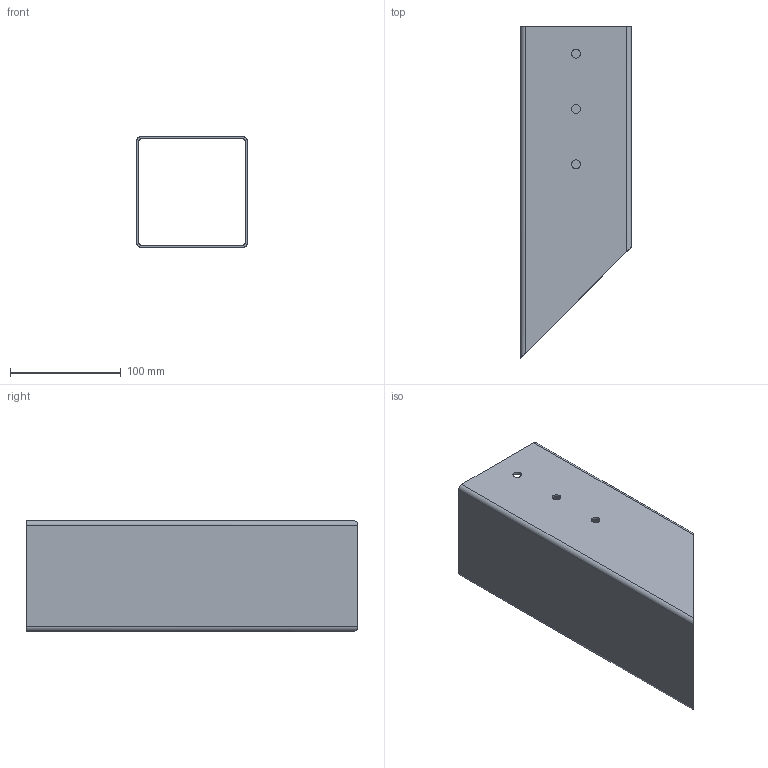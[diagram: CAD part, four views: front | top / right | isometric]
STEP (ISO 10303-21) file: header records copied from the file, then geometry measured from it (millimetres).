
FILE_DESCRIPTION(('STEP AP214'), '1');
FILE_NAME('Ïðîôèëü L = 300 ìì (2)', '', ('UNSPECIFIED'), ('UNSPECIFIED'), 'C3D Converter', 'C3D Toolkit', '');
FILE_SCHEMA(('AUTOMOTIVE_DESIGN { 1 0 10303 214 3 1 1}'));
Length unit declared in the file: millimetre
Products named in the file (1): АКСЛ.298.302-01
Bounding box: 100 x 300 x 100 mm (x, y, z)
Volume: 192821.6 mm3; surface area: 194991.1 mm2
Topology: 1 solids, 1 shells, 24 faces, 66 edges, 44 vertices
Faces by surface type: cylinder 14, plane 10
Full cylindrical faces by diameter (mm): 8 x6
Entity records: 803 total; most frequent: CARTESIAN_POINT 153, DIRECTION 122, ORIENTED_EDGE 120, EDGE_CURVE 60, AXIS2_PLACEMENT_3D 45, EDGE_LOOP 44, VERTEX_POINT 44, FACE_BOUND 32
